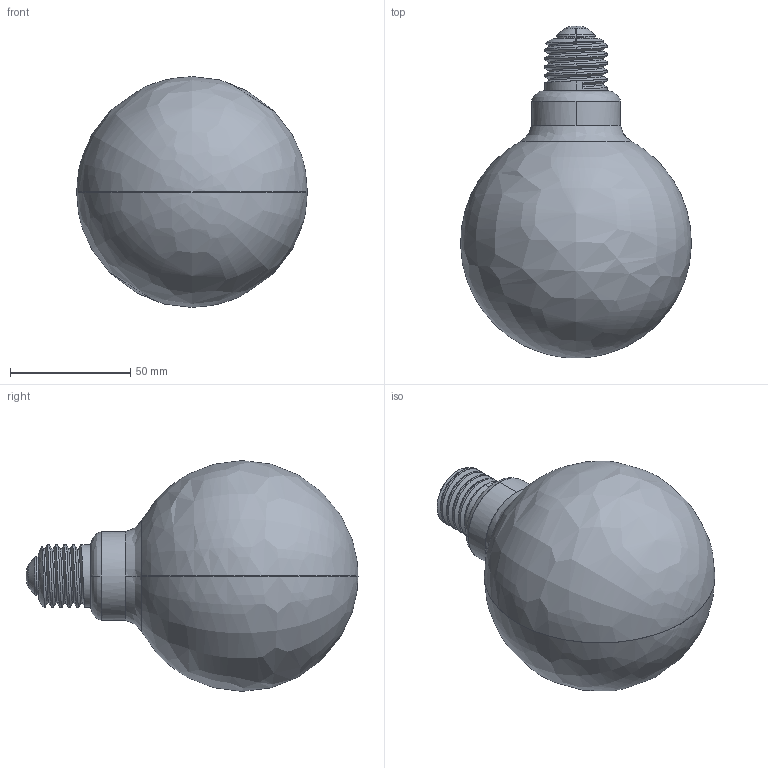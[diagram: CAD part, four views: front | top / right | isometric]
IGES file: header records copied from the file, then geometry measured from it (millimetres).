
Start section: SolidWorks IGES file using NURBS representation for surfaces
Global section: file name: Z:\Modele 3D_WWW\_KOLEKCJE_WWW\REFLECTOR\BULB-GLASS-BALL-LED-E27-9177\BULB-GLASS-BALL-LED-E27-9177.IGS; native system: SolidWorks 2021; preprocessor: SolidWorks 2021; author: gabriela.tworek; date: 210908.124931; units: millimetre
Bounding box: 95.91 x 138 x 95.91 mm (x, y, z)
Surface area: 64868.7 mm2 (no closed solid volume)
Topology: 0 solids, 0 shells, 50 faces, 857 edges, 851 vertices
Faces by surface type: bspline 50
